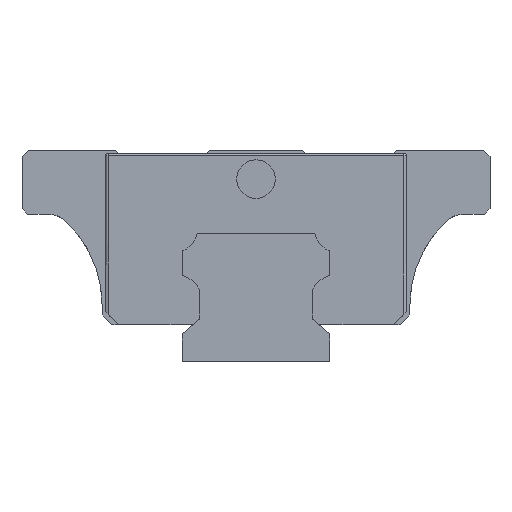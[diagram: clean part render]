
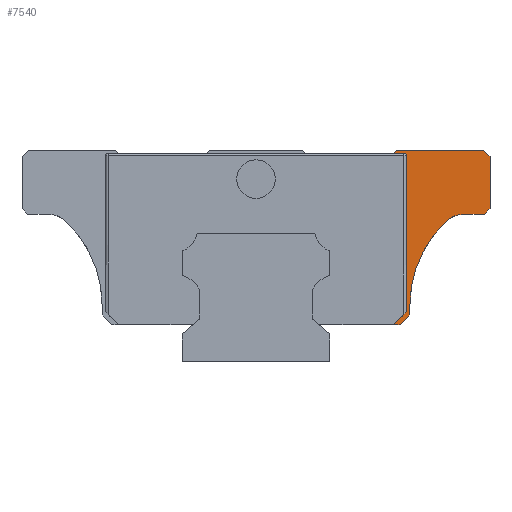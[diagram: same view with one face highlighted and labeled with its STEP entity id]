
A CAD part, left-side view. The second image highlights one B-rep face of the part: STEP entity #7540.
In plain terms, the highlighted planar face has unit normal (-1, 0, 0).
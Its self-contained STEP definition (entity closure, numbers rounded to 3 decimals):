
#3 = EDGE_CURVE ( 'NONE', #6940, #3335, #5100, .T. ) ;
#76 = LINE ( 'NONE', #6782, #3275 ) ;
#157 = CARTESIAN_POINT ( 'NONE',  ( -29.5, -32.41, 23. ) ) ;
#206 = CIRCLE ( 'NONE', #1882, 0.365 ) ;
#230 = LINE ( 'NONE', #2854, #5069 ) ;
#320 = CARTESIAN_POINT ( 'NONE',  ( -29.5, -32.41, 19. ) ) ;
#426 = VECTOR ( 'NONE', #1814, 1000. ) ;
#433 = CARTESIAN_POINT ( 'NONE',  ( -29.5, -21.443, 5.8 ) ) ;
#452 = DIRECTION ( 'NONE',  ( 0., -1., 0. ) ) ;
#529 = CARTESIAN_POINT ( 'NONE',  ( -29.5, -42., 8.8 ) ) ;
#596 = VECTOR ( 'NONE', #452, 1000. ) ;
#653 = ORIENTED_EDGE ( 'NONE', *, *, #4801, .T. ) ;
#765 = DIRECTION ( 'NONE',  ( 0., 0., 1. ) ) ;
#769 = ORIENTED_EDGE ( 'NONE', *, *, #5274, .T. ) ;
#970 = LINE ( 'NONE', #2697, #2540 ) ;
#984 = ORIENTED_EDGE ( 'NONE', *, *, #6223, .T. ) ;
#1020 = ORIENTED_EDGE ( 'NONE', *, *, #1407, .F. ) ;
#1113 = VECTOR ( 'NONE', #7815, 1000. ) ;
#1164 = EDGE_CURVE ( 'NONE', #2551, #1692, #2990, .T. ) ;
#1199 = LINE ( 'NONE', #7302, #1113 ) ;
#1212 = VERTEX_POINT ( 'NONE', #7271 ) ;
#1407 = EDGE_CURVE ( 'NONE', #2026, #5567, #970, .T. ) ;
#1502 = EDGE_CURVE ( 'NONE', #1212, #5287, #6266, .T. ) ;
#1503 = CARTESIAN_POINT ( 'NONE',  ( -29.5, -24., 7.3 ) ) ;
#1543 = EDGE_CURVE ( 'NONE', #3508, #2551, #1199, .T. ) ;
#1602 = DIRECTION ( 'NONE',  ( 1., 0., 0. ) ) ;
#1685 = VECTOR ( 'NONE', #3973, 1000. ) ;
#1692 = VERTEX_POINT ( 'NONE', #5583 ) ;
#1716 = CARTESIAN_POINT ( 'NONE',  ( -29.5, -21.9, 33. ) ) ;
#1788 = AXIS2_PLACEMENT_3D ( 'NONE', #2243, #4095, #6560 ) ;
#1813 = CARTESIAN_POINT ( 'NONE',  ( -29.5, -24., 8.8 ) ) ;
#1814 = DIRECTION ( 'NONE',  ( 0., 0., 1. ) ) ;
#1882 = AXIS2_PLACEMENT_3D ( 'NONE', #7543, #2005, #2043 ) ;
#2005 = DIRECTION ( 'NONE',  ( 1., 0., 0. ) ) ;
#2026 = VERTEX_POINT ( 'NONE', #433 ) ;
#2043 = DIRECTION ( 'NONE',  ( 0., 0., 1. ) ) ;
#2122 = ORIENTED_EDGE ( 'NONE', *, *, #4903, .F. ) ;
#2167 = DIRECTION ( 'NONE',  ( 0., -0.707, 0.707 ) ) ;
#2173 = ORIENTED_EDGE ( 'NONE', *, *, #1164, .T. ) ;
#2241 = EDGE_LOOP ( 'NONE', ( #2672, #7437, #5239, #2122, #2893, #5441, #1020, #4179, #7939, #769, #653, #4333, #984, #4762, #2173 ) ) ;
#2243 = CARTESIAN_POINT ( 'NONE',  ( -29.5, -10.009, 5.8 ) ) ;
#2286 = PLANE ( 'NONE',  #1788 ) ;
#2299 = LINE ( 'NONE', #6536, #596 ) ;
#2348 = VECTOR ( 'NONE', #6579, 1000. ) ;
#2424 = DIRECTION ( 'NONE',  ( 0., 0., 1. ) ) ;
#2478 = VECTOR ( 'NONE', #4312, 1000. ) ;
#2540 = VECTOR ( 'NONE', #2167, 1000. ) ;
#2551 = VERTEX_POINT ( 'NONE', #5732 ) ;
#2672 = ORIENTED_EDGE ( 'NONE', *, *, #4775, .T. ) ;
#2697 = CARTESIAN_POINT ( 'NONE',  ( -29.5, -21.443, 5.8 ) ) ;
#2854 = CARTESIAN_POINT ( 'NONE',  ( -29.5, -11.736, 5.8 ) ) ;
#2893 = ORIENTED_EDGE ( 'NONE', *, *, #5290, .T. ) ;
#2895 = CARTESIAN_POINT ( 'NONE',  ( -29.5, -23.084, 32.5 ) ) ;
#2990 = LINE ( 'NONE', #5439, #426 ) ;
#3275 = VECTOR ( 'NONE', #2424, 1000. ) ;
#3335 = VERTEX_POINT ( 'NONE', #4986 ) ;
#3390 = CARTESIAN_POINT ( 'NONE',  ( -29.5, -23.449, 7.806 ) ) ;
#3417 = CARTESIAN_POINT ( 'NONE',  ( -29.5, -36.5, 33. ) ) ;
#3448 = VERTEX_POINT ( 'NONE', #4052 ) ;
#3456 = DIRECTION ( 'NONE',  ( 0., 0., 1. ) ) ;
#3508 = VERTEX_POINT ( 'NONE', #7128 ) ;
#3539 = DIRECTION ( 'NONE',  ( 1., 0., 0. ) ) ;
#3572 = LINE ( 'NONE', #3417, #5853 ) ;
#3823 = LINE ( 'NONE', #6284, #6647 ) ;
#3966 = VERTEX_POINT ( 'NONE', #4542 ) ;
#3973 = DIRECTION ( 'NONE',  ( 0., -0.707, 0.707 ) ) ;
#4022 = DIRECTION ( 'NONE',  ( 0., -1., 0. ) ) ;
#4041 = EDGE_CURVE ( 'NONE', #2026, #6940, #230, .T. ) ;
#4052 = CARTESIAN_POINT ( 'NONE',  ( -29.5, -35.55, 33. ) ) ;
#4095 = DIRECTION ( 'NONE',  ( -1., 0., 0. ) ) ;
#4110 = LINE ( 'NONE', #5360, #2348 ) ;
#4179 = ORIENTED_EDGE ( 'NONE', *, *, #4041, .T. ) ;
#4192 = VERTEX_POINT ( 'NONE', #2895 ) ;
#4273 = CIRCLE ( 'NONE', #4399, 18. ) ;
#4312 = DIRECTION ( 'NONE',  ( 0., 1., 0. ) ) ;
#4333 = ORIENTED_EDGE ( 'NONE', *, *, #1502, .T. ) ;
#4349 = EDGE_CURVE ( 'NONE', #6653, #6041, #5579, .T. ) ;
#4399 = AXIS2_PLACEMENT_3D ( 'NONE', #529, #3539, #6205 ) ;
#4420 = CARTESIAN_POINT ( 'NONE',  ( -29.5, -24.589, 32.5 ) ) ;
#4542 = CARTESIAN_POINT ( 'NONE',  ( -29.5, -23.449, 32.135 ) ) ;
#4762 = ORIENTED_EDGE ( 'NONE', *, *, #1543, .T. ) ;
#4775 = EDGE_CURVE ( 'NONE', #1692, #3448, #4110, .T. ) ;
#4801 = EDGE_CURVE ( 'NONE', #6941, #1212, #4273, .T. ) ;
#4820 = VECTOR ( 'NONE', #5656, 1000. ) ;
#4903 = EDGE_CURVE ( 'NONE', #4192, #6041, #6133, .T. ) ;
#4986 = CARTESIAN_POINT ( 'NONE',  ( -29.5, -24., 7.3 ) ) ;
#5069 = VECTOR ( 'NONE', #4022, 1000. ) ;
#5100 = LINE ( 'NONE', #1503, #1685 ) ;
#5234 = DIRECTION ( 'NONE',  ( 0., 1., 0. ) ) ;
#5239 = ORIENTED_EDGE ( 'NONE', *, *, #4349, .T. ) ;
#5274 = EDGE_CURVE ( 'NONE', #3335, #6941, #3823, .T. ) ;
#5287 = VERTEX_POINT ( 'NONE', #157 ) ;
#5290 = EDGE_CURVE ( 'NONE', #4192, #3966, #206, .T. ) ;
#5360 = CARTESIAN_POINT ( 'NONE',  ( -29.5, -35.55, 33. ) ) ;
#5439 = CARTESIAN_POINT ( 'NONE',  ( -29.5, -36.5, 23. ) ) ;
#5441 = ORIENTED_EDGE ( 'NONE', *, *, #6419, .F. ) ;
#5567 = VERTEX_POINT ( 'NONE', #3390 ) ;
#5579 = LINE ( 'NONE', #7417, #4820 ) ;
#5583 = CARTESIAN_POINT ( 'NONE',  ( -29.5, -36.5, 32.05 ) ) ;
#5656 = DIRECTION ( 'NONE',  ( 0., 0.643, -0.766 ) ) ;
#5732 = CARTESIAN_POINT ( 'NONE',  ( -29.5, -36.5, 23.9 ) ) ;
#5853 = VECTOR ( 'NONE', #5234, 1000. ) ;
#6041 = VERTEX_POINT ( 'NONE', #6217 ) ;
#6133 = LINE ( 'NONE', #4420, #2478 ) ;
#6205 = DIRECTION ( 'NONE',  ( 0., 0., 1. ) ) ;
#6217 = CARTESIAN_POINT ( 'NONE',  ( -29.5, -21.48, 32.5 ) ) ;
#6223 = EDGE_CURVE ( 'NONE', #5287, #3508, #2299, .T. ) ;
#6266 = CIRCLE ( 'NONE', #7563, 4. ) ;
#6284 = CARTESIAN_POINT ( 'NONE',  ( -29.5, -24., 8.8 ) ) ;
#6419 = EDGE_CURVE ( 'NONE', #5567, #3966, #76, .T. ) ;
#6536 = CARTESIAN_POINT ( 'NONE',  ( -29.5, -35.6, 23. ) ) ;
#6560 = DIRECTION ( 'NONE',  ( 0., 0., 1. ) ) ;
#6579 = DIRECTION ( 'NONE',  ( 0., 0.707, 0.707 ) ) ;
#6642 = EDGE_CURVE ( 'NONE', #3448, #6653, #3572, .T. ) ;
#6647 = VECTOR ( 'NONE', #765, 1000. ) ;
#6653 = VERTEX_POINT ( 'NONE', #1716 ) ;
#6782 = CARTESIAN_POINT ( 'NONE',  ( -29.5, -23.449, 7.8 ) ) ;
#6940 = VERTEX_POINT ( 'NONE', #7353 ) ;
#6941 = VERTEX_POINT ( 'NONE', #1813 ) ;
#7128 = CARTESIAN_POINT ( 'NONE',  ( -29.5, -35.6, 23. ) ) ;
#7271 = CARTESIAN_POINT ( 'NONE',  ( -29.5, -29.671, 21.914 ) ) ;
#7302 = CARTESIAN_POINT ( 'NONE',  ( -29.5, -36.5, 23.9 ) ) ;
#7353 = CARTESIAN_POINT ( 'NONE',  ( -29.5, -22.5, 5.8 ) ) ;
#7417 = CARTESIAN_POINT ( 'NONE',  ( -29.5, -21.9, 33. ) ) ;
#7437 = ORIENTED_EDGE ( 'NONE', *, *, #6642, .T. ) ;
#7540 = ADVANCED_FACE ( 'NONE', ( #7776 ), #2286, .T. ) ;
#7543 = CARTESIAN_POINT ( 'NONE',  ( -29.5, -23.084, 32.135 ) ) ;
#7563 = AXIS2_PLACEMENT_3D ( 'NONE', #320, #1602, #3456 ) ;
#7776 = FACE_OUTER_BOUND ( 'NONE', #2241, .T. ) ;
#7815 = DIRECTION ( 'NONE',  ( 0., -0.707, 0.707 ) ) ;
#7939 = ORIENTED_EDGE ( 'NONE', *, *, #3, .T. ) ;
